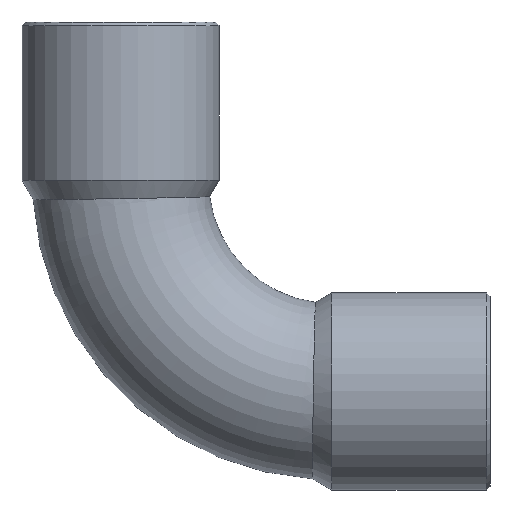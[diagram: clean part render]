
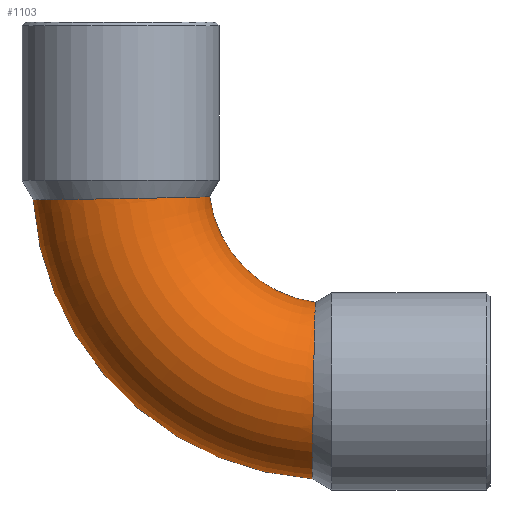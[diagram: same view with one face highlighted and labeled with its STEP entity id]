
A CAD part, front view. The second image highlights one B-rep face of the part: STEP entity #1103.
In plain terms, the highlighted toroidal (fillet/blend) face has major radius 12 mm and minor radius 5 mm.
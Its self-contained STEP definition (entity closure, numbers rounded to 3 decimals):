
#49=CARTESIAN_POINT('',(5.071,0.,-1.101));
#50=VERTEX_POINT('',#49);
#51=CARTESIAN_POINT('',(20.934,0.,-16.964));
#52=VERTEX_POINT('',#51);
#53=CARTESIAN_POINT('',(22.035,0.,0.0));
#54=DIRECTION('',(0.0,-1.0,0.0));
#55=DIRECTION('',(0.0,0.0,-1.0));
#56=AXIS2_PLACEMENT_3D('',#53,#54,#55);
#57=CIRCLE('',#56,17.0);
#58=EDGE_CURVE('',#50,#52,#57,.T.);
#60=CARTESIAN_POINT('',(15.097,0.,-0.931));
#61=VERTEX_POINT('',#60);
#85=CARTESIAN_POINT('',(21.104,0.,-6.938));
#86=VERTEX_POINT('',#85);
#87=CARTESIAN_POINT('',(22.035,0.,0.0));
#88=DIRECTION('',(0.0,1.0,0.0));
#89=DIRECTION('',(0.0,0.0,-1.0));
#90=AXIS2_PLACEMENT_3D('',#87,#88,#89);
#91=CIRCLE('',#90,7.);
#92=EDGE_CURVE('',#86,#61,#91,.T.);
#224=CARTESIAN_POINT('',(15.097,0.,-0.931));
#225=CARTESIAN_POINT('',(15.097,-0.061,-0.931));
#226=CARTESIAN_POINT('',(15.096,-0.123,-0.931));
#227=CARTESIAN_POINT('',(15.069,-0.844,-0.932));
#228=CARTESIAN_POINT('',(14.914,-1.491,-0.937));
#229=CARTESIAN_POINT('',(14.358,-2.695,-0.952));
#230=CARTESIAN_POINT('',(13.96,-3.238,-0.963));
#231=CARTESIAN_POINT('',(12.989,-4.124,-0.986));
#232=CARTESIAN_POINT('',(12.43,-4.464,-0.997));
#233=CARTESIAN_POINT('',(11.222,-4.91,-1.02));
#234=CARTESIAN_POINT('',(10.583,-5.016,-1.031));
#235=CARTESIAN_POINT('',(9.301,-4.981,-1.051));
#236=CARTESIAN_POINT('',(8.669,-4.84,-1.06));
#237=CARTESIAN_POINT('',(7.489,-4.328,-1.075));
#238=CARTESIAN_POINT('',(6.953,-3.959,-1.081));
#239=CARTESIAN_POINT('',(6.048,-3.038,-1.091));
#240=CARTESIAN_POINT('',(5.689,-2.492,-1.095));
#241=CARTESIAN_POINT('',(5.197,-1.293,-1.1));
#242=CARTESIAN_POINT('',(5.071,-0.649,-1.101));
#243=CARTESIAN_POINT('',(5.071,0.,-1.101));
#244=B_SPLINE_CURVE_WITH_KNOTS('',3,(#224,#225,#226,#227,#228,#229,#230,#231,#232,#233,#234,#235,#236,#237,#238,#239,#240,#241,#242,#243),.UNSPECIFIED.,.F.,.U.,(4,2,2,2,2,2,2,2,2,4),(-1.578,-1.559,-1.361,-1.161,-0.967,-0.775,-0.582,-0.389,-0.195,0.0),.UNSPECIFIED.);
#245=EDGE_CURVE('',#61,#50,#244,.T.);
#1052=CARTESIAN_POINT('',(20.934,0.,-16.964));
#1053=CARTESIAN_POINT('',(20.934,-0.364,-16.964));
#1054=CARTESIAN_POINT('',(20.934,-0.727,-16.925));
#1055=CARTESIAN_POINT('',(20.936,-1.436,-16.767));
#1056=CARTESIAN_POINT('',(20.937,-1.781,-16.65));
#1057=CARTESIAN_POINT('',(20.942,-2.706,-16.219));
#1058=CARTESIAN_POINT('',(20.946,-3.241,-15.826));
#1059=CARTESIAN_POINT('',(20.957,-4.132,-14.853));
#1060=CARTESIAN_POINT('',(20.964,-4.479,-14.28));
#1061=CARTESIAN_POINT('',(20.98,-4.93,-13.027));
#1062=CARTESIAN_POINT('',(20.99,-5.028,-12.359));
#1063=CARTESIAN_POINT('',(21.011,-4.958,-11.026));
#1064=CARTESIAN_POINT('',(21.023,-4.791,-10.374));
#1065=CARTESIAN_POINT('',(21.046,-4.22,-9.189));
#1066=CARTESIAN_POINT('',(21.058,-3.828,-8.664));
#1067=CARTESIAN_POINT('',(21.079,-2.883,-7.809));
#1068=CARTESIAN_POINT('',(21.088,-2.345,-7.48));
#1069=CARTESIAN_POINT('',(21.1,-1.197,-7.047));
#1070=CARTESIAN_POINT('',(21.104,-0.601,-6.938));
#1071=CARTESIAN_POINT('',(21.104,0.,-6.938));
#1072=B_SPLINE_CURVE_WITH_KNOTS('',3,(#1052,#1053,#1054,#1055,#1056,#1057,#1058,#1059,#1060,#1061,#1062,#1063,#1064,#1065,#1066,#1067,#1068,#1069,#1070,#1071),.UNSPECIFIED.,.F.,.U.,(4,2,2,2,2,2,2,2,2,4),(-3.155,-3.046,-2.937,-2.74,-2.541,-2.341,-2.141,-1.946,-1.758,-1.578),.UNSPECIFIED.);
#1073=EDGE_CURVE('',#52,#86,#1072,.T.);
#1092=CARTESIAN_POINT('',(22.035,0.,0.0));
#1093=DIRECTION('',(0.0,-1.0,0.0));
#1094=DIRECTION('',(0.0,0.0,-1.0));
#1095=AXIS2_PLACEMENT_3D('',#1092,#1093,#1094);
#1096=TOROIDAL_SURFACE('',#1095,12.,5.0);
#1097=ORIENTED_EDGE('',*,*,#58,.T.);
#1098=ORIENTED_EDGE('',*,*,#1073,.T.);
#1099=ORIENTED_EDGE('',*,*,#92,.T.);
#1100=ORIENTED_EDGE('',*,*,#245,.T.);
#1101=EDGE_LOOP('',(#1097,#1098,#1099,#1100));
#1102=FACE_OUTER_BOUND('',#1101,.T.);
#1103=ADVANCED_FACE('',(#1102),#1096,.T.);
